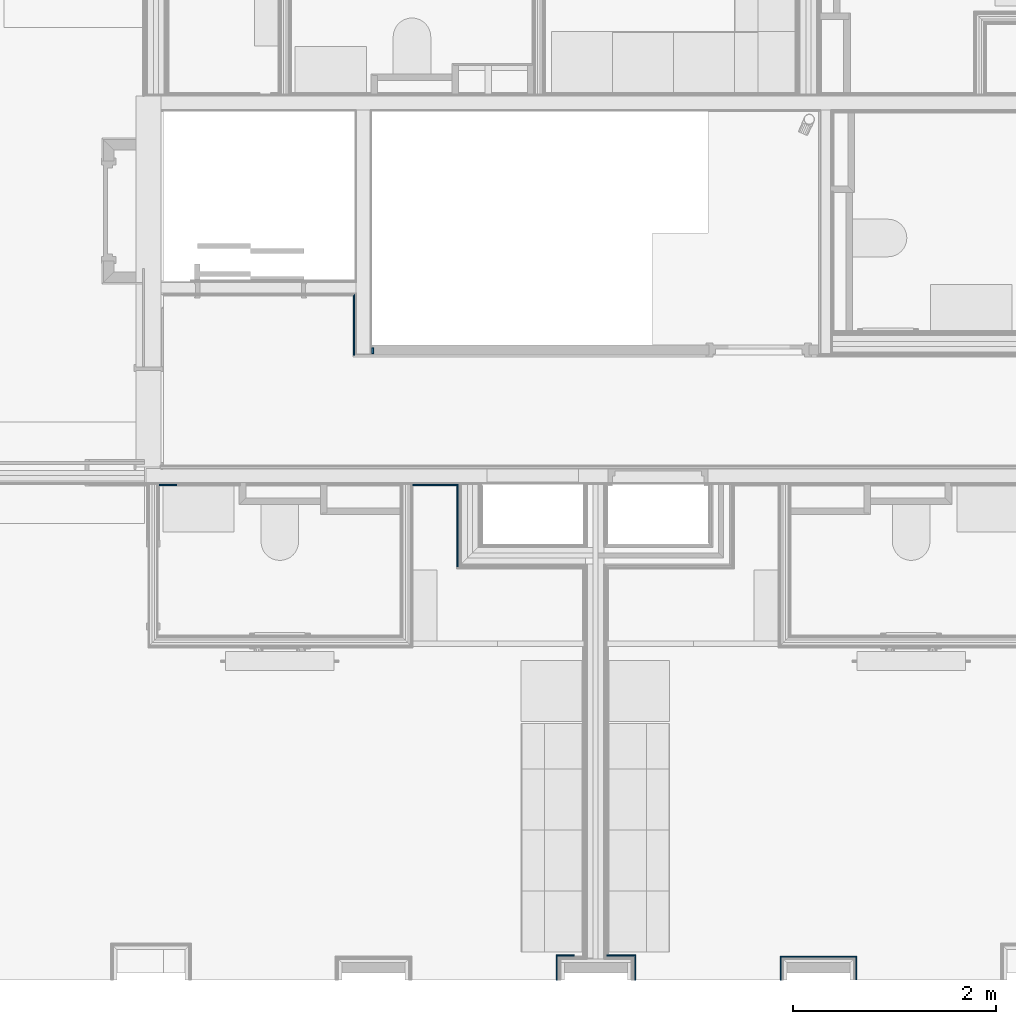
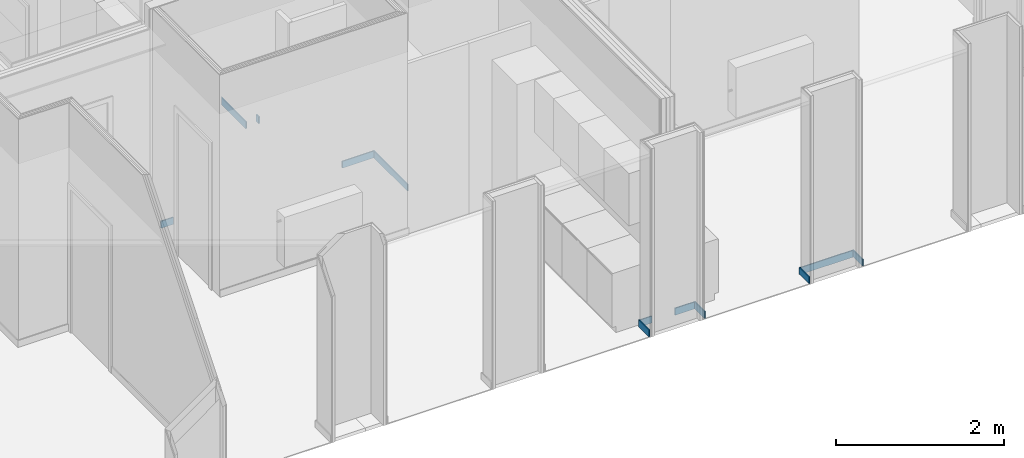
# One storey, part 32 of 65: 12 building element parts, 9 elements without a shape of their own.
"""IFC2X3 building model written with IfcOpenShell, lengths in metres."""

from ifc_helpers import new_model, entity, si_unit, converted_unit, derived_unit, money_unit, direction, frame, frame_2d, origin_with_axes, place, context, subcontext, project, spatial, polyline, rectangle, outline, extrude, material, type_object, element, aggregate, save


model = new_model("IFC2X3")

# Units and contexts
model_context = context("Model", 3, precision=1e-05, world=origin_with_axes(), true_north=direction((0.0, 1.0)))
body_context = subcontext(model_context, "Body", "Model", "MODEL_VIEW", scale=1.0)
ifc_project = project(units=[si_unit("LENGTHUNIT", "METRE"), si_unit("AREAUNIT", "SQUARE_METRE"), si_unit("VOLUMEUNIT", "CUBIC_METRE"), si_unit("ABSORBEDDOSEUNIT", "GRAY"), si_unit("AMOUNTOFSUBSTANCEUNIT", "MOLE"), si_unit("DOSEEQUIVALENTUNIT", "SIEVERT"), si_unit("ELECTRICCAPACITANCEUNIT", "FARAD"), si_unit("ELECTRICCHARGEUNIT", "COULOMB"), si_unit("ELECTRICCONDUCTANCEUNIT", "SIEMENS"), si_unit("ELECTRICCURRENTUNIT", "AMPERE"), si_unit("ELECTRICRESISTANCEUNIT", "OHM"), si_unit("ELECTRICVOLTAGEUNIT", "VOLT"), si_unit("ENERGYUNIT", "JOULE"), si_unit("FORCEUNIT", "NEWTON"), si_unit("FREQUENCYUNIT", "HERTZ"), si_unit("ILLUMINANCEUNIT", "LUX"), si_unit("INDUCTANCEUNIT", "HENRY"), si_unit("LUMINOUSFLUXUNIT", "LUMEN"), si_unit("LUMINOUSINTENSITYUNIT", "CANDELA"), si_unit("MAGNETICFLUXDENSITYUNIT", "TESLA"), si_unit("MAGNETICFLUXUNIT", "WEBER"), si_unit("MASSUNIT", "GRAM"), converted_unit("PLANEANGLEUNIT", "degree", entity("IfcReal", 0.0174532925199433), si_unit("PLANEANGLEUNIT", "RADIAN"), dimensions=[0, 0, 0, 0, 0, 0, 0]), si_unit("POWERUNIT", "WATT"), si_unit("PRESSUREUNIT", "PASCAL"), si_unit("RADIOACTIVITYUNIT", "BECQUEREL"), si_unit("SOLIDANGLEUNIT", "STERADIAN"), si_unit("THERMODYNAMICTEMPERATUREUNIT", "KELVIN"), si_unit("TIMEUNIT", "SECOND"), derived_unit("ACCELERATIONUNIT", [(si_unit("LENGTHUNIT", "METRE"), 1), (si_unit("TIMEUNIT", "SECOND"), -2)]), derived_unit("ANGULARVELOCITYUNIT", [(converted_unit("PLANEANGLEUNIT", "degree", entity("IfcReal", 0.0174532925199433), si_unit("PLANEANGLEUNIT", "RADIAN"), dimensions=[0, 0, 0, 0, 0, 0, 0]), 1), (si_unit("TIMEUNIT", "SECOND"), -1)]), derived_unit("CURVATUREUNIT", [(converted_unit("PLANEANGLEUNIT", "degree", entity("IfcReal", 0.0174532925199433), si_unit("PLANEANGLEUNIT", "RADIAN"), dimensions=[0, 0, 0, 0, 0, 0, 0]), 1), (si_unit("LENGTHUNIT", "METRE"), -1)]), derived_unit("DYNAMICVISCOSITYUNIT", [(si_unit("PRESSUREUNIT", "PASCAL"), 1), (si_unit("TIMEUNIT", "SECOND"), 1)]), derived_unit("HEATFLUXDENSITYUNIT", [(si_unit("POWERUNIT", "WATT"), 1), (si_unit("LENGTHUNIT", "METRE"), -2)]), derived_unit("HEATINGVALUEUNIT", [(si_unit("ENERGYUNIT", "JOULE"), 1), (si_unit("MASSUNIT", "GRAM"), -1)]), derived_unit("INTEGERCOUNTRATEUNIT", [(si_unit("TIMEUNIT", "SECOND"), -1)]), derived_unit("IONCONCENTRATIONUNIT", [(si_unit("MASSUNIT", "GRAM"), 1), (si_unit("VOLUMEUNIT", "CUBIC_METRE"), -1)]), derived_unit("ISOTHERMALMOISTURECAPACITYUNIT", [(si_unit("VOLUMEUNIT", "CUBIC_METRE"), 1), (si_unit("MASSUNIT", "GRAM"), -1)]), derived_unit("KINEMATICVISCOSITYUNIT", [(si_unit("AREAUNIT", "SQUARE_METRE"), 1), (si_unit("TIMEUNIT", "SECOND"), -1)]), derived_unit("LINEARFORCEUNIT", [(si_unit("FORCEUNIT", "NEWTON"), 1), (si_unit("LENGTHUNIT", "METRE"), -1)]), derived_unit("LINEARMOMENTUNIT", [(si_unit("FORCEUNIT", "NEWTON"), 1), (si_unit("LENGTHUNIT", "METRE"), -1)]), derived_unit("LINEARSTIFFNESSUNIT", [(si_unit("FORCEUNIT", "NEWTON"), 1), (si_unit("LENGTHUNIT", "METRE"), -1)]), derived_unit("LINEARVELOCITYUNIT", [(si_unit("LENGTHUNIT", "METRE"), 1), (si_unit("TIMEUNIT", "SECOND"), -1)]), derived_unit("LUMINOUSINTENSITYDISTRIBUTIONUNIT", [(si_unit("LUMINOUSINTENSITYUNIT", "CANDELA"), 1), (si_unit("LUMINOUSFLUXUNIT", "LUMEN"), -1)]), derived_unit("MASSDENSITYUNIT", [(si_unit("MASSUNIT", "GRAM"), 1), (si_unit("VOLUMEUNIT", "CUBIC_METRE"), -1)]), derived_unit("MASSFLOWRATEUNIT", [(si_unit("MASSUNIT", "GRAM"), 1), (si_unit("TIMEUNIT", "SECOND"), -1)]), derived_unit("MASSPERLENGTHUNIT", [(si_unit("MASSUNIT", "GRAM"), 1), (si_unit("LENGTHUNIT", "METRE"), -1)]), derived_unit("MODULUSOFELASTICITYUNIT", [(si_unit("FORCEUNIT", "NEWTON"), 1), (si_unit("AREAUNIT", "SQUARE_METRE"), -1)]), derived_unit("MODULUSOFLINEARSUBGRADEREACTIONUNIT", [(si_unit("FORCEUNIT", "NEWTON"), 1), (si_unit("LENGTHUNIT", "METRE"), -2)]), derived_unit("MODULUSOFROTATIONALSUBGRADEREACTIONUNIT", [(si_unit("FORCEUNIT", "NEWTON"), 1), (si_unit("LENGTHUNIT", "METRE"), 1)]), derived_unit("MODULUSOFSUBGRADEREACTIONUNIT", [(si_unit("FORCEUNIT", "NEWTON"), 1), (si_unit("VOLUMEUNIT", "CUBIC_METRE"), -1)]), derived_unit("MOISTUREDIFFUSIVITYUNIT", [(si_unit("VOLUMEUNIT", "CUBIC_METRE"), 1), (si_unit("TIMEUNIT", "SECOND"), -1)]), derived_unit("MOLECULARWEIGHTUNIT", [(si_unit("MASSUNIT", "GRAM"), 1), (si_unit("AMOUNTOFSUBSTANCEUNIT", "MOLE"), -1)]), derived_unit("PLANARFORCEUNIT", [(si_unit("FORCEUNIT", "NEWTON"), 1), (si_unit("LENGTHUNIT", "METRE"), -2)]), derived_unit("ROTATIONALFREQUENCYUNIT", [(si_unit("TIMEUNIT", "SECOND"), -1)]), derived_unit("ROTATIONALMASSUNIT", [(si_unit("MASSUNIT", "GRAM"), 1), (si_unit("LENGTHUNIT", "METRE"), 2)]), derived_unit("ROTATIONALSTIFFNESSUNIT", [(si_unit("FORCEUNIT", "NEWTON"), 1), (si_unit("LENGTHUNIT", "METRE"), 1), (converted_unit("PLANEANGLEUNIT", "degree", entity("IfcReal", 0.0174532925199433), si_unit("PLANEANGLEUNIT", "RADIAN"), dimensions=[0, 0, 0, 0, 0, 0, 0]), -1)]), derived_unit("SECTIONAREAINTEGRALUNIT", [(si_unit("LENGTHUNIT", "METRE"), 5)]), derived_unit("SECTIONMODULUSUNIT", [(si_unit("LENGTHUNIT", "METRE"), 3)]), derived_unit("SHEARMODULUSUNIT", [(si_unit("FORCEUNIT", "NEWTON"), 1), (si_unit("AREAUNIT", "SQUARE_METRE"), -1)]), derived_unit("SOUNDPOWERUNIT", [(si_unit("ENERGYUNIT", "JOULE"), 1), (si_unit("TIMEUNIT", "SECOND"), -1)]), derived_unit("SPECIFICHEATCAPACITYUNIT", [(si_unit("FORCEUNIT", "NEWTON"), 1), (si_unit("MASSUNIT", "GRAM"), -1), (si_unit("THERMODYNAMICTEMPERATUREUNIT", "KELVIN"), -1)]), derived_unit("TEMPERATUREGRADIENTUNIT", [(si_unit("THERMODYNAMICTEMPERATUREUNIT", "KELVIN"), 1), (si_unit("LENGTHUNIT", "METRE"), -1)]), derived_unit("THERMALADMITTANCEUNIT", [(si_unit("POWERUNIT", "WATT"), 1), (si_unit("AREAUNIT", "SQUARE_METRE"), -1), (si_unit("THERMODYNAMICTEMPERATUREUNIT", "KELVIN"), -1)]), derived_unit("THERMALCONDUCTANCEUNIT", [(si_unit("POWERUNIT", "WATT"), 1), (si_unit("LENGTHUNIT", "METRE"), -1), (si_unit("THERMODYNAMICTEMPERATUREUNIT", "KELVIN"), -1)]), derived_unit("THERMALEXPANSIONCOEFFICIENTUNIT", [(si_unit("THERMODYNAMICTEMPERATUREUNIT", "KELVIN"), -1)]), derived_unit("THERMALRESISTANCEUNIT", [(si_unit("AREAUNIT", "SQUARE_METRE"), 1), (si_unit("POWERUNIT", "WATT"), -1)]), derived_unit("THERMALTRANSMITTANCEUNIT", [(si_unit("POWERUNIT", "WATT"), 1), (si_unit("AREAUNIT", "SQUARE_METRE"), -1), (si_unit("THERMODYNAMICTEMPERATUREUNIT", "KELVIN"), -1)]), derived_unit("TORQUEUNIT", [(si_unit("FORCEUNIT", "NEWTON"), 1), (si_unit("LENGTHUNIT", "METRE"), 1)]), derived_unit("VAPORPERMEABILITYUNIT", [(si_unit("MASSUNIT", "GRAM"), 1), (si_unit("TIMEUNIT", "SECOND"), -1)]), derived_unit("VOLUMETRICFLOWRATEUNIT", [(si_unit("VOLUMEUNIT", "CUBIC_METRE"), 1), (si_unit("TIMEUNIT", "SECOND"), -1)]), derived_unit("WARPINGCONSTANTUNIT", [(si_unit("LENGTHUNIT", "METRE"), 6)]), derived_unit("WARPINGMOMENTUNIT", [(si_unit("FORCEUNIT", "NEWTON"), 1), (si_unit("LENGTHUNIT", "METRE"), 2)]), money_unit("GBP")], contexts=[model_context])

# Site, building, storey
site_placement = place(None, origin_with_axes())
site = spatial("IfcSite", under=ifc_project, at=site_placement, Name="Site", CompositionType="ELEMENT")
building_placement = place(site_placement, origin_with_axes())
building = spatial("IfcBuilding", under=site, at=building_placement, Name="Building01", CompositionType="ELEMENT")
storey_placement = place(building_placement, frame((0.0, 0.0, 8.64), z_axis=(0.0, 0.0, 1.0), x_axis=(1.0, 0.0, 0.0)))
storey = spatial("IfcBuildingStorey", under=building, at=storey_placement, Name="2F", CompositionType="ELEMENT", Elevation=8.64)

# Wall, building element parts
wall_type_1 = type_object("IfcWallType", Name="SHE_A-Walls_Type03a_BlockworkWall_170mm", PredefinedType="NOTDEFINED")
wall_1_placement = place(storey_placement, frame((11.145, 6.263, 0.0), z_axis=(0.0, 0.0, 1.0), x_axis=(0.0, 1.0, 0.0)))
wall_1 = element("IfcWall", 1, at=wall_1_placement, inside=storey, type_object=wall_type_1, Name="4B", ObjectType="SHE_A-Walls_Type03a_BlockworkWall_170mm")
ifc_material = material(Name="A_BSUK_Walls_Timber")
placement_1 = place(wall_1_placement, origin_with_axes())
building_element_part_1 = element("IfcBuildingElementPart", 2, at=placement_1, material=ifc_material, Name="1", context=body_context, shape_type="SweptSolid", body=[
    extrude(rectangle(XDim=0.062, YDim=0.015, at=frame_2d((0.031, -0.1625), x_axis=(-1.0, 0.0))), frame((0.0, 0.0, 0.015), z_axis=(0.0, 0.0, 1.0), x_axis=(1.0, 0.0, 0.0)), (0.0, 0.0, 1.0), 0.1),
])
building_element_part_2 = element("IfcBuildingElementPart", 3, at=placement_1, material=ifc_material, Name="6", context=body_context, shape_type="SweptSolid", body=[
    extrude(outline(polyline([(0.572, 0.03), (-0.013, 0.03), (-0.013, 0.015), (0.587, 0.015), (0.572, 0.03)])), frame((0.0, 0.0, 0.015), z_axis=(0.0, 0.0, 1.0), x_axis=(1.0, 0.0, 0.0)), (0.0, 0.0, 1.0), 0.1),
])
aggregate(wall_1, [building_element_part_1, building_element_part_2])

# Wall, building element part
wall_type_2 = type_object("IfcWallType", Name="SHE_A-Walls_Type06d_ExternalWallInsulation_48mm", PredefinedType="NOTDEFINED")
wall_2_placement = place(storey_placement, frame((15.383, 0.1, 0.0), z_axis=(0.0, 0.0, 1.0), x_axis=(0.0, 1.0, 0.0)))
wall_2 = element("IfcWall", 4, at=wall_2_placement, inside=storey, type_object=wall_type_2, Name="6D", ObjectType="SHE_A-Walls_Type06d_ExternalWallInsulation_48mm")
building_element_part_3_placement = place(wall_2_placement, origin_with_axes())
building_element_part_3 = element("IfcBuildingElementPart", 5, at=building_element_part_3_placement, material=ifc_material, Name="3", context=body_context, shape_type="SweptSolid", body=[
    extrude(outline(polyline([(0.233, 0.063), (0.0, 0.063), (0.0, 0.048), (0.218, 0.048), (0.233, 0.063)])), frame((0.0, 0.0, 0.015), z_axis=(0.0, 0.0, 1.0), x_axis=(1.0, 0.0, 0.0)), (0.0, 0.0, 1.0), 0.1),
])
aggregate(wall_2, [building_element_part_3])

wall_3_placement = place(storey_placement, frame((15.383, 0.27, 0.0), z_axis=(0.0, 0.0, 1.0), x_axis=(1.0, 0.0, 0.0)))
wall_3 = element("IfcWall", 6, at=wall_3_placement, inside=storey, type_object=wall_type_2, Name="6D", ObjectType="SHE_A-Walls_Type06d_ExternalWallInsulation_48mm")
building_element_part_4_placement = place(wall_3_placement, origin_with_axes())
building_element_part_4 = element("IfcBuildingElementPart", 7, at=building_element_part_4_placement, material=ifc_material, Name="3", context=body_context, shape_type="SweptSolid", body=[
    extrude(outline(polyline([(0.687, 0.063), (-0.063, 0.063), (-0.048, 0.048), (0.672, 0.048), (0.687, 0.063)])), frame((0.0, 0.0, 0.015), z_axis=(0.0, 0.0, 1.0), x_axis=(1.0, 0.0, 0.0)), (0.0, 0.0, 1.0), 0.1),
])
aggregate(wall_3, [building_element_part_4])

wall_4_placement = place(storey_placement, frame((16.007, 0.27, 0.0), z_axis=(0.0, 0.0, 1.0), x_axis=(0.0, -1.0, 0.0)))
wall_4 = element("IfcWall", 8, at=wall_4_placement, inside=storey, type_object=wall_type_2, Name="6D", ObjectType="SHE_A-Walls_Type06d_ExternalWallInsulation_48mm")
building_element_part_5_placement = place(wall_4_placement, origin_with_axes())
building_element_part_5 = element("IfcBuildingElementPart", 9, at=building_element_part_5_placement, material=ifc_material, Name="3", context=body_context, shape_type="SweptSolid", body=[
    extrude(outline(polyline([(-0.063, 0.063), (-0.048, 0.048), (0.17, 0.048), (0.17, 0.063), (-0.063, 0.063)])), frame((0.0, 0.0, 0.015), z_axis=(0.0, 0.0, 1.0), x_axis=(1.0, 0.0, 0.0)), (0.0, 0.0, 1.0), 0.1),
])
aggregate(wall_4, [building_element_part_5])

wall_type_3 = type_object("IfcWallType", Name="SHE_A-Walls_Type01c_Partywall_225mm_twin_tall", PredefinedType="NOTDEFINED")
wall_5_placement = place(storey_placement, frame((12.288, 4.98, 0.0), z_axis=(0.0, 0.0, 1.0), x_axis=(0.0, -1.0, 0.0)))
wall_5 = element("IfcWall", 10, at=wall_5_placement, inside=storey, type_object=wall_type_3, Name="1C", ObjectType="SHE_A-Walls_Type01c_Partywall_225mm_twin_tall")
building_element_part_6_placement = place(wall_5_placement, origin_with_axes())
building_element_part_6 = element("IfcBuildingElementPart", 11, at=building_element_part_6_placement, material=ifc_material, Name="1", context=body_context, shape_type="SweptSolid", body=[
    extrude(rectangle(XDim=0.815572, YDim=0.015, at=frame_2d((0.407786, -0.1455), x_axis=(-1.0, 0.0))), frame((0.0, 0.0, 0.015), z_axis=(0.0, 0.0, 1.0), x_axis=(1.0, 0.0, 0.0)), (0.0, 0.0, 1.0), 0.1),
])
aggregate(wall_5, [building_element_part_6])

# Wall, building element parts
wall_6_placement = place(storey_placement, frame((9.075, 4.995, 0.0), z_axis=(0.0, 0.0, 1.0), x_axis=(1.0, 0.0, 0.0)))
wall_6 = element("IfcWall", 12, at=wall_6_placement, inside=storey, type_object=wall_type_1, Name="4B", ObjectType="SHE_A-Walls_Type03a_BlockworkWall_170mm")
placement_2 = place(wall_6_placement, origin_with_axes())
building_element_part_7 = element("IfcBuildingElementPart", 13, at=placement_2, material=ifc_material, Name="1", context=body_context, shape_type="SweptSolid", body=[
    extrude(rectangle(XDim=0.169464, YDim=0.015, at=frame_2d((0.217268, -0.0225), x_axis=(-1.0, 0.0))), frame((0.0, 0.0, 0.015), z_axis=(0.0, 0.0, 1.0), x_axis=(1.0, 0.0, 0.0)), (0.0, 0.0, 1.0), 0.1),
])
building_element_part_8 = element("IfcBuildingElementPart", 14, at=placement_2, material=ifc_material, Name="6", context=body_context, shape_type="SweptSolid", body=[
    extrude(rectangle(XDim=0.432464, YDim=0.015, at=frame_2d((2.843768, -0.0225), x_axis=(-1.0, 0.0))), frame((0.0, 0.0, 0.015), z_axis=(0.0, 0.0, 1.0), x_axis=(1.0, 0.0, 0.0)), (0.0, 0.0, 1.0), 0.1),
])
aggregate(wall_6, [building_element_part_7, building_element_part_8])

# Wall, building element part
wall_type_4 = type_object("IfcWallType", Name="SHE_A-Walls_Type06f_ExternalWallInsulation_48+15mm", PredefinedType="NOTDEFINED")
wall_7_placement = place(storey_placement, frame((13.193, 0.27, 0.0), z_axis=(0.0, 0.0, 1.0), x_axis=(0.0, 1.0, 0.0)))
wall_7 = element("IfcWall", 15, at=wall_7_placement, inside=storey, type_object=wall_type_4, Name="6F", ObjectType="SHE_A-Walls_Type06f_ExternalWallInsulation_48+15mm")
building_element_part_9_placement = place(wall_7_placement, origin_with_axes())
building_element_part_9 = element("IfcBuildingElementPart", 16, at=building_element_part_9_placement, material=ifc_material, Name="4", context=body_context, shape_type="SweptSolid", body=[
    extrude(outline(polyline([(-0.17, 0.063), (0.063, 0.063), (0.078, 0.078), (-0.17, 0.078), (-0.17, 0.063)])), frame((0.0, 0.0, 0.015), z_axis=(0.0, 0.0, 1.0), x_axis=(1.0, 0.0, 0.0)), (0.0, 0.0, 1.0), 0.1),
])
aggregate(wall_7, [building_element_part_9])

# Wall, building element parts
wall_8_placement = place(storey_placement, frame((13.853124, 0.27, 0.0), z_axis=(0.0, 0.0, 1.0), x_axis=(1.0, 0.0, 0.0)))
wall_8 = element("IfcWall", 17, at=wall_8_placement, inside=storey, type_object=wall_type_4, Name="6F", ObjectType="SHE_A-Walls_Type06f_ExternalWallInsulation_48+15mm")
placement_3 = place(wall_8_placement, origin_with_axes())
building_element_part_10 = element("IfcBuildingElementPart", 18, at=placement_3, material=ifc_material, Name="6", context=body_context, shape_type="SweptSolid", body=[
    extrude(outline(polyline([(-0.240624, 0.063), (0.027, 0.063), (0.042, 0.078), (-0.240624, 0.078), (-0.240624, 0.063)])), frame((0.0, 0.0, 0.015), z_axis=(0.0, 0.0, 1.0), x_axis=(1.0, 0.0, 0.0)), (0.0, 0.0, 1.0), 0.1),
])
building_element_part_11 = element("IfcBuildingElementPart", 19, at=placement_3, material=ifc_material, Name="7", context=body_context, shape_type="SweptSolid", body=[
    extrude(outline(polyline([(-0.723124, 0.063), (-0.559992, 0.063), (-0.559992, 0.078), (-0.738124, 0.078), (-0.723124, 0.063)])), frame((0.0, 0.0, 0.015), z_axis=(0.0, 0.0, 1.0), x_axis=(1.0, 0.0, 0.0)), (0.0, 0.0, 1.0), 0.1),
])
aggregate(wall_8, [building_element_part_10, building_element_part_11])

# Wall, building element part
wall_9_placement = place(storey_placement, frame((13.817124, 0.27, 0.0), z_axis=(0.0, 0.0, 1.0), x_axis=(0.0, 1.0, 0.0)))
wall_9 = element("IfcWall", 20, at=wall_9_placement, inside=storey, type_object=wall_type_4, Name="6F", ObjectType="SHE_A-Walls_Type06f_ExternalWallInsulation_48+15mm")
building_element_part_12_placement = place(wall_9_placement, origin_with_axes())
building_element_part_12 = element("IfcBuildingElementPart", 21, at=building_element_part_12_placement, material=ifc_material, Name="1", context=body_context, shape_type="SweptSolid", body=[
    extrude(outline(polyline([(-0.17, -0.078), (0.078, -0.078), (0.063, -0.063), (-0.17, -0.063), (-0.17, -0.078)])), frame((0.0, 0.0, 0.015), z_axis=(0.0, 0.0, 1.0), x_axis=(1.0, 0.0, 0.0)), (0.0, 0.0, 1.0), 0.1),
])
aggregate(wall_9, [building_element_part_12])

save(model, "model.ifc")
